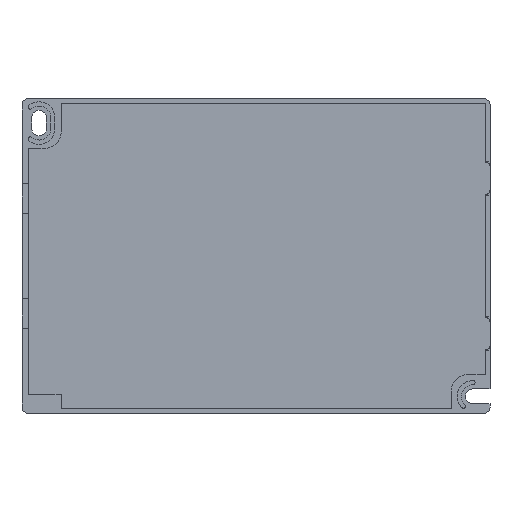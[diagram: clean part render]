
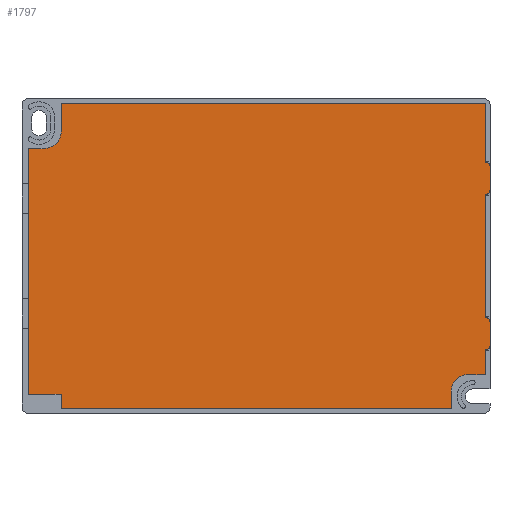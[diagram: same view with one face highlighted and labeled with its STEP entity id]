
A CAD part, front view. The second image highlights one B-rep face of the part: STEP entity #1797.
In plain terms, the highlighted planar face has unit normal (0, -1, 0).
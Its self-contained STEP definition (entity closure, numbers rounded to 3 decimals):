
#2=DIRECTION('',(0.,0.,-1.));
#3=VECTOR('',#2,13.9);
#4=CARTESIAN_POINT('',(48.9,0.,35.15));
#5=LINE('',#4,#3);
#6=DIRECTION('',(-1.,0.,0.));
#7=VECTOR('',#6,0.1);
#8=CARTESIAN_POINT('',(49.,0.,21.25));
#9=LINE('',#8,#7);
#10=CARTESIAN_POINT('',(49.,0.,20.25));
#11=DIRECTION('',(0.,-1.,0.));
#12=DIRECTION('',(1.,0.,0.));
#13=AXIS2_PLACEMENT_3D('',#10,#11,#12);
#15=DIRECTION('',(0.,0.,1.));
#16=VECTOR('',#15,5.5);
#17=CARTESIAN_POINT('',(50.,0.,14.75));
#18=LINE('',#17,#16);
#19=CARTESIAN_POINT('',(49.,0.,14.75));
#20=DIRECTION('',(0.,-1.,0.));
#21=DIRECTION('',(0.,0.,-1.));
#22=AXIS2_PLACEMENT_3D('',#19,#20,#21);
#24=DIRECTION('',(1.,0.,0.));
#25=VECTOR('',#24,0.1);
#26=CARTESIAN_POINT('',(48.9,0.,13.75));
#27=LINE('',#26,#25);
#28=DIRECTION('',(-1.,0.,0.));
#29=VECTOR('',#28,0.1);
#30=CARTESIAN_POINT('',(49.,0.,-15.25));
#31=LINE('',#30,#29);
#32=CARTESIAN_POINT('',(49.,0.,-16.25));
#33=DIRECTION('',(0.,-1.,0.));
#34=DIRECTION('',(1.,0.,0.));
#35=AXIS2_PLACEMENT_3D('',#32,#33,#34);
#37=DIRECTION('',(0.,0.,1.));
#38=VECTOR('',#37,5.5);
#39=CARTESIAN_POINT('',(50.,0.,-21.75));
#40=LINE('',#39,#38);
#41=CARTESIAN_POINT('',(49.,0.,-21.75));
#42=DIRECTION('',(0.,-1.,0.));
#43=DIRECTION('',(0.,0.,-1.));
#44=AXIS2_PLACEMENT_3D('',#41,#42,#43);
#46=DIRECTION('',(1.,0.,0.));
#47=VECTOR('',#46,0.1);
#48=CARTESIAN_POINT('',(48.9,0.,-22.75));
#49=LINE('',#48,#47);
#50=DIRECTION('',(0.,0.,-1.));
#51=VECTOR('',#50,5.9);
#52=CARTESIAN_POINT('',(48.9,0.,-22.75));
#53=LINE('',#52,#51);
#54=DIRECTION('',(-1.,0.,0.));
#55=VECTOR('',#54,4.15);
#56=CARTESIAN_POINT('',(48.9,0.,-28.65));
#57=LINE('',#56,#55);
#58=DIRECTION('',(0.,0.,1.));
#59=VECTOR('',#58,4.15);
#60=CARTESIAN_POINT('',(40.9,0.,-36.65));
#61=LINE('',#60,#59);
#62=DIRECTION('',(0.,0.,1.));
#63=VECTOR('',#62,3.35);
#64=CARTESIAN_POINT('',(-50.8,0.,-36.65));
#65=LINE('',#64,#63);
#66=DIRECTION('',(1.,0.,0.));
#67=VECTOR('',#66,7.7);
#68=CARTESIAN_POINT('',(-58.5,0.,-33.3));
#69=LINE('',#68,#67);
#78=DIRECTION('',(0.,0.,-1.));
#79=VECTOR('',#78,57.8);
#80=CARTESIAN_POINT('',(-58.5,0.,24.5));
#81=LINE('',#80,#79);
#233=DIRECTION('',(0.,0.,1.));
#234=VECTOR('',#233,29.);
#235=CARTESIAN_POINT('',(48.9,0.,-15.25));
#236=LINE('',#235,#234);
#319=DIRECTION('',(-1.,0.,0.));
#320=VECTOR('',#319,99.7);
#321=CARTESIAN_POINT('',(48.9,0.,35.15));
#322=LINE('',#321,#320);
#371=DIRECTION('',(0.,0.,-1.));
#372=VECTOR('',#371,6.65);
#373=CARTESIAN_POINT('',(-50.8,0.,35.15));
#374=LINE('',#373,#372);
#375=CARTESIAN_POINT('',(-54.8,0.,28.5));
#376=DIRECTION('',(0.,1.,0.));
#377=DIRECTION('',(1.,0.,0.));
#378=AXIS2_PLACEMENT_3D('',#375,#376,#377);
#384=DIRECTION('',(-1.,0.,0.));
#385=VECTOR('',#384,3.7);
#386=CARTESIAN_POINT('',(-54.8,0.,24.5));
#387=LINE('',#386,#385);
#461=CARTESIAN_POINT('',(44.75,0.,-32.5));
#462=DIRECTION('',(0.,1.,0.));
#463=DIRECTION('',(-1.,0.,0.));
#464=AXIS2_PLACEMENT_3D('',#461,#462,#463);
#478=DIRECTION('',(1.,0.,0.));
#479=VECTOR('',#478,91.7);
#480=CARTESIAN_POINT('',(-50.8,0.,-36.65));
#481=LINE('',#480,#479);
#1326=CARTESIAN_POINT('',(49.,0.,-22.75));
#1327=VERTEX_POINT('',#1326);
#1328=CARTESIAN_POINT('',(50.,0.,-21.75));
#1329=VERTEX_POINT('',#1328);
#1334=CARTESIAN_POINT('',(50.,0.,-16.25));
#1335=VERTEX_POINT('',#1334);
#1336=CARTESIAN_POINT('',(49.,0.,-15.25));
#1337=VERTEX_POINT('',#1336);
#1344=CARTESIAN_POINT('',(-58.5,0.,-33.3));
#1345=CARTESIAN_POINT('',(-50.8,0.,-33.3));
#1346=VERTEX_POINT('',#1344);
#1347=VERTEX_POINT('',#1345);
#1378=CARTESIAN_POINT('',(49.,0.,13.75));
#1379=VERTEX_POINT('',#1378);
#1380=CARTESIAN_POINT('',(50.,0.,14.75));
#1381=VERTEX_POINT('',#1380);
#1386=CARTESIAN_POINT('',(50.,0.,20.25));
#1387=VERTEX_POINT('',#1386);
#1388=CARTESIAN_POINT('',(49.,0.,21.25));
#1389=VERTEX_POINT('',#1388);
#1394=CARTESIAN_POINT('',(-50.8,0.,28.5));
#1395=CARTESIAN_POINT('',(-54.8,0.,24.5));
#1396=VERTEX_POINT('',#1394);
#1397=VERTEX_POINT('',#1395);
#1404=CARTESIAN_POINT('',(-58.5,0.,24.5));
#1406=VERTEX_POINT('',#1404);
#1420=CARTESIAN_POINT('',(48.9,0.,-28.65));
#1422=VERTEX_POINT('',#1420);
#1424=CARTESIAN_POINT('',(40.9,0.,-36.65));
#1426=VERTEX_POINT('',#1424);
#1429=CARTESIAN_POINT('',(44.75,0.,-28.65));
#1431=VERTEX_POINT('',#1429);
#1433=CARTESIAN_POINT('',(40.9,0.,-32.5));
#1435=VERTEX_POINT('',#1433);
#1452=CARTESIAN_POINT('',(48.9,0.,-22.75));
#1453=VERTEX_POINT('',#1452);
#1454=CARTESIAN_POINT('',(48.9,0.,-15.25));
#1455=VERTEX_POINT('',#1454);
#1456=CARTESIAN_POINT('',(-50.8,0.,-36.65));
#1457=VERTEX_POINT('',#1456);
#1472=CARTESIAN_POINT('',(48.9,0.,35.15));
#1474=VERTEX_POINT('',#1472);
#1492=CARTESIAN_POINT('',(48.9,0.,13.75));
#1493=VERTEX_POINT('',#1492);
#1494=CARTESIAN_POINT('',(48.9,0.,21.25));
#1495=VERTEX_POINT('',#1494);
#1496=CARTESIAN_POINT('',(-50.8,0.,35.15));
#1498=VERTEX_POINT('',#1496);
#1742=CARTESIAN_POINT('',(0.,0.,0.));
#1743=DIRECTION('',(0.,1.,0.));
#1744=DIRECTION('',(1.,0.,0.));
#1745=AXIS2_PLACEMENT_3D('',#1742,#1743,#1744);
#1746=PLANE('',#1745);
#1748=ORIENTED_EDGE('',*,*,#1747,.F.);
#1750=ORIENTED_EDGE('',*,*,#1749,.F.);
#1752=ORIENTED_EDGE('',*,*,#1751,.F.);
#1754=ORIENTED_EDGE('',*,*,#1753,.F.);
#1756=ORIENTED_EDGE('',*,*,#1755,.F.);
#1758=ORIENTED_EDGE('',*,*,#1757,.T.);
#1760=ORIENTED_EDGE('',*,*,#1759,.F.);
#1762=ORIENTED_EDGE('',*,*,#1761,.F.);
#1764=ORIENTED_EDGE('',*,*,#1763,.F.);
#1766=ORIENTED_EDGE('',*,*,#1765,.F.);
#1768=ORIENTED_EDGE('',*,*,#1767,.F.);
#1770=ORIENTED_EDGE('',*,*,#1769,.F.);
#1772=ORIENTED_EDGE('',*,*,#1771,.F.);
#1774=ORIENTED_EDGE('',*,*,#1773,.F.);
#1776=ORIENTED_EDGE('',*,*,#1775,.F.);
#1778=ORIENTED_EDGE('',*,*,#1777,.F.);
#1780=ORIENTED_EDGE('',*,*,#1779,.F.);
#1782=ORIENTED_EDGE('',*,*,#1781,.T.);
#1784=ORIENTED_EDGE('',*,*,#1783,.T.);
#1786=ORIENTED_EDGE('',*,*,#1785,.F.);
#1788=ORIENTED_EDGE('',*,*,#1787,.F.);
#1790=ORIENTED_EDGE('',*,*,#1789,.F.);
#1792=ORIENTED_EDGE('',*,*,#1791,.T.);
#1794=ORIENTED_EDGE('',*,*,#1793,.F.);
#1795=EDGE_LOOP('',(#1748,#1750,#1752,#1754,#1756,#1758,#1760,#1762,#1764,#1766,
#1768,#1770,#1772,#1774,#1776,#1778,#1780,#1782,#1784,#1786,#1788,#1790,#1792,
#1794));
#1796=FACE_OUTER_BOUND('',#1795,.F.);
#14=CIRCLE('',#13,1.);
#23=CIRCLE('',#22,1.);
#36=CIRCLE('',#35,1.);
#45=CIRCLE('',#44,1.);
#379=CIRCLE('',#378,4.);
#465=CIRCLE('',#464,3.85);
#1747=EDGE_CURVE('',#1406,#1346,#81,.T.);
#1749=EDGE_CURVE('',#1397,#1406,#387,.T.);
#1751=EDGE_CURVE('',#1396,#1397,#379,.T.);
#1753=EDGE_CURVE('',#1498,#1396,#374,.T.);
#1755=EDGE_CURVE('',#1474,#1498,#322,.T.);
#1757=EDGE_CURVE('',#1474,#1495,#5,.T.);
#1759=EDGE_CURVE('',#1389,#1495,#9,.T.);
#1761=EDGE_CURVE('',#1387,#1389,#14,.T.);
#1763=EDGE_CURVE('',#1381,#1387,#18,.T.);
#1765=EDGE_CURVE('',#1379,#1381,#23,.T.);
#1767=EDGE_CURVE('',#1493,#1379,#27,.T.);
#1769=EDGE_CURVE('',#1455,#1493,#236,.T.);
#1771=EDGE_CURVE('',#1337,#1455,#31,.T.);
#1773=EDGE_CURVE('',#1335,#1337,#36,.T.);
#1775=EDGE_CURVE('',#1329,#1335,#40,.T.);
#1777=EDGE_CURVE('',#1327,#1329,#45,.T.);
#1779=EDGE_CURVE('',#1453,#1327,#49,.T.);
#1781=EDGE_CURVE('',#1453,#1422,#53,.T.);
#1783=EDGE_CURVE('',#1422,#1431,#57,.T.);
#1785=EDGE_CURVE('',#1435,#1431,#465,.T.);
#1787=EDGE_CURVE('',#1426,#1435,#61,.T.);
#1789=EDGE_CURVE('',#1457,#1426,#481,.T.);
#1791=EDGE_CURVE('',#1457,#1347,#65,.T.);
#1793=EDGE_CURVE('',#1346,#1347,#69,.T.);
#1797=ADVANCED_FACE('',(#1796),#1746,.F.);
